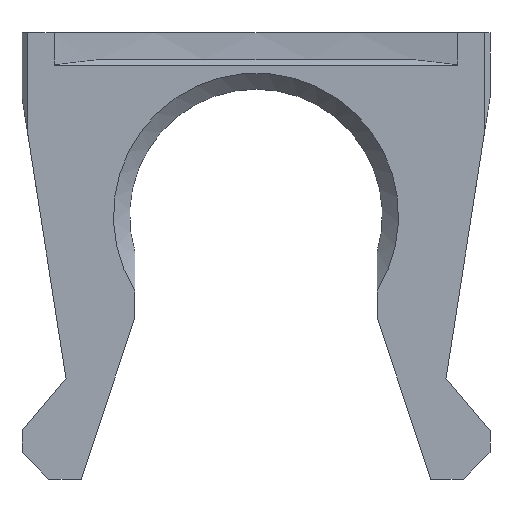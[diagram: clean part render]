
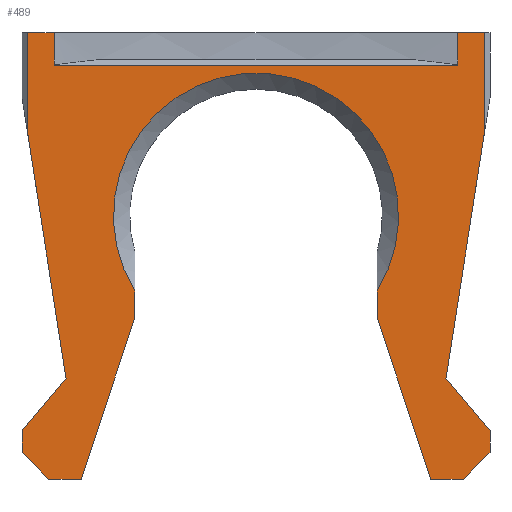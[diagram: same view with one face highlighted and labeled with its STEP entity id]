
A CAD part, left-side view. The second image highlights one B-rep face of the part: STEP entity #489.
In plain terms, the highlighted planar face has unit normal (-1, 0, 0).
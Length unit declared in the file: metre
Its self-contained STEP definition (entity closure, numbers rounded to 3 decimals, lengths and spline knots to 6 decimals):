
#19=CIRCLE('',#529,0.0053);
#24=ORIENTED_EDGE('',*,*,#168,.T.);
#25=ORIENTED_EDGE('',*,*,#169,.T.);
#26=ORIENTED_EDGE('',*,*,#170,.T.);
#27=ORIENTED_EDGE('',*,*,#171,.F.);
#28=ORIENTED_EDGE('',*,*,#172,.F.);
#29=ORIENTED_EDGE('',*,*,#173,.T.);
#30=ORIENTED_EDGE('',*,*,#174,.F.);
#31=ORIENTED_EDGE('',*,*,#175,.F.);
#32=ORIENTED_EDGE('',*,*,#176,.T.);
#33=ORIENTED_EDGE('',*,*,#177,.T.);
#34=ORIENTED_EDGE('',*,*,#178,.F.);
#35=ORIENTED_EDGE('',*,*,#179,.F.);
#36=ORIENTED_EDGE('',*,*,#180,.T.);
#37=ORIENTED_EDGE('',*,*,#181,.F.);
#38=ORIENTED_EDGE('',*,*,#182,.T.);
#39=ORIENTED_EDGE('',*,*,#183,.T.);
#40=ORIENTED_EDGE('',*,*,#184,.T.);
#41=ORIENTED_EDGE('',*,*,#185,.F.);
#42=ORIENTED_EDGE('',*,*,#186,.T.);
#43=ORIENTED_EDGE('',*,*,#187,.T.);
#44=ORIENTED_EDGE('',*,*,#188,.T.);
#45=ORIENTED_EDGE('',*,*,#189,.T.);
#168=EDGE_CURVE('',#240,#241,#288,.T.);
#169=EDGE_CURVE('',#241,#242,#289,.F.);
#170=EDGE_CURVE('',#242,#243,#290,.T.);
#171=EDGE_CURVE('',#244,#243,#291,.T.);
#172=EDGE_CURVE('',#245,#244,#292,.F.);
#173=EDGE_CURVE('',#245,#246,#293,.T.);
#174=EDGE_CURVE('',#247,#246,#294,.T.);
#175=EDGE_CURVE('',#248,#247,#295,.T.);
#176=EDGE_CURVE('',#248,#249,#296,.T.);
#177=EDGE_CURVE('',#249,#250,#297,.F.);
#178=EDGE_CURVE('',#251,#250,#298,.T.);
#179=EDGE_CURVE('',#252,#251,#299,.T.);
#180=EDGE_CURVE('',#252,#253,#300,.F.);
#181=EDGE_CURVE('',#254,#253,#301,.T.);
#182=EDGE_CURVE('',#254,#255,#302,.T.);
#183=EDGE_CURVE('',#255,#256,#303,.T.);
#184=EDGE_CURVE('',#256,#257,#19,.T.);
#185=EDGE_CURVE('',#258,#257,#304,.T.);
#186=EDGE_CURVE('',#258,#259,#305,.T.);
#187=EDGE_CURVE('',#259,#260,#306,.T.);
#188=EDGE_CURVE('',#260,#261,#307,.F.);
#189=EDGE_CURVE('',#261,#240,#308,.T.);
#240=VERTEX_POINT('',#695);
#241=VERTEX_POINT('',#696);
#242=VERTEX_POINT('',#698);
#243=VERTEX_POINT('',#700);
#244=VERTEX_POINT('',#702);
#245=VERTEX_POINT('',#704);
#246=VERTEX_POINT('',#706);
#247=VERTEX_POINT('',#708);
#248=VERTEX_POINT('',#710);
#249=VERTEX_POINT('',#712);
#250=VERTEX_POINT('',#714);
#251=VERTEX_POINT('',#716);
#252=VERTEX_POINT('',#718);
#253=VERTEX_POINT('',#720);
#254=VERTEX_POINT('',#722);
#255=VERTEX_POINT('',#724);
#256=VERTEX_POINT('',#726);
#257=VERTEX_POINT('',#728);
#258=VERTEX_POINT('',#730);
#259=VERTEX_POINT('',#732);
#260=VERTEX_POINT('',#734);
#261=VERTEX_POINT('',#736);
#288=LINE('',#694,#351);
#289=LINE('',#697,#352);
#290=LINE('',#699,#353);
#291=LINE('',#701,#354);
#292=LINE('',#703,#355);
#293=LINE('',#705,#356);
#294=LINE('',#707,#357);
#295=LINE('',#709,#358);
#296=LINE('',#711,#359);
#297=LINE('',#713,#360);
#298=LINE('',#715,#361);
#299=LINE('',#717,#362);
#300=LINE('',#719,#363);
#301=LINE('',#721,#364);
#302=LINE('',#723,#365);
#303=LINE('',#725,#366);
#304=LINE('',#729,#367);
#305=LINE('',#731,#368);
#306=LINE('',#733,#369);
#307=LINE('',#735,#370);
#308=LINE('',#737,#371);
#351=VECTOR('',#565,1.);
#352=VECTOR('',#566,1.);
#353=VECTOR('',#567,1.);
#354=VECTOR('',#568,1.);
#355=VECTOR('',#569,1.);
#356=VECTOR('',#570,1.);
#357=VECTOR('',#571,1.);
#358=VECTOR('',#572,1.);
#359=VECTOR('',#573,1.);
#360=VECTOR('',#574,1.);
#361=VECTOR('',#575,1.);
#362=VECTOR('',#576,1.);
#363=VECTOR('',#577,1.);
#364=VECTOR('',#578,1.);
#365=VECTOR('',#579,1.);
#366=VECTOR('',#580,1.);
#367=VECTOR('',#583,1.);
#368=VECTOR('',#584,1.);
#369=VECTOR('',#585,1.);
#370=VECTOR('',#586,1.);
#371=VECTOR('',#587,1.);
#414=EDGE_LOOP('',(#24,#25,#26,#27,#28,#29,#30,#31,#32,#33,#34,#35,#36,
#37,#38,#39,#40,#41,#42,#43,#44,#45));
#440=FACE_BOUND('',#414,.T.);
#466=PLANE('',#528);
#489=ADVANCED_FACE('',(#440),#466,.F.);
#528=AXIS2_PLACEMENT_3D('',#693,#563,#564);
#529=AXIS2_PLACEMENT_3D('',#727,#581,#582);
#563=DIRECTION('',(1.,0.,0.));
#564=DIRECTION('',(0.,1.,0.));
#565=DIRECTION('',(0.,0.643,0.766));
#566=DIRECTION('',(0.,0.155,-0.988));
#567=DIRECTION('',(0.,0.,1.));
#568=DIRECTION('',(0.,-1.,0.));
#569=DIRECTION('',(0.,0.,-1.));
#570=DIRECTION('',(0.,1.,0.));
#571=DIRECTION('',(0.,0.,-1.));
#572=DIRECTION('',(0.,-1.,0.));
#573=DIRECTION('',(0.,0.,-1.));
#574=DIRECTION('',(0.,0.155,0.988));
#575=DIRECTION('',(0.,-0.643,0.766));
#576=DIRECTION('',(0.,0.,1.));
#577=DIRECTION('',(0.,0.707,0.707));
#578=DIRECTION('',(0.,1.,0.));
#579=DIRECTION('',(0.,-0.316,0.949));
#580=DIRECTION('',(0.,0.,1.));
#581=DIRECTION('',(1.,0.,0.));
#582=DIRECTION('',(0.,0.,-1.));
#583=DIRECTION('',(0.,0.,1.));
#584=DIRECTION('',(0.,-0.316,-0.949));
#585=DIRECTION('',(0.,-1.,0.));
#586=DIRECTION('',(0.,0.707,-0.707));
#587=DIRECTION('',(0.,0.,1.));
#693=CARTESIAN_POINT('',(0.056,0.,0.014073));
#694=CARTESIAN_POINT('',(0.056,-0.0082,0.005604));
#695=CARTESIAN_POINT('',(0.056,-0.0087,0.005008));
#696=CARTESIAN_POINT('',(0.056,-0.007064,0.006958));
#697=CARTESIAN_POINT('',(0.056,-0.006772,0.005094));
#698=CARTESIAN_POINT('',(0.056,-0.0085,0.016116));
#699=CARTESIAN_POINT('',(0.056,-0.0085,0.014073));
#700=CARTESIAN_POINT('',(0.056,-0.0085,0.0198));
#701=CARTESIAN_POINT('',(0.056,0.00435,0.0198));
#702=CARTESIAN_POINT('',(0.056,-0.0075,0.0198));
#703=CARTESIAN_POINT('',(0.056,-0.0075,0.0438));
#704=CARTESIAN_POINT('',(0.056,-0.0075,0.0186));
#705=CARTESIAN_POINT('',(0.056,0.,0.0186));
#706=CARTESIAN_POINT('',(0.056,0.0075,0.0186));
#707=CARTESIAN_POINT('',(0.056,0.0075,0.0438));
#708=CARTESIAN_POINT('',(0.056,0.0075,0.0198));
#709=CARTESIAN_POINT('',(0.056,0.00435,0.0198));
#710=CARTESIAN_POINT('',(0.056,0.0085,0.0198));
#711=CARTESIAN_POINT('',(0.056,0.0085,0.014073));
#712=CARTESIAN_POINT('',(0.056,0.0085,0.016116));
#713=CARTESIAN_POINT('',(0.056,0.0087,0.017392));
#714=CARTESIAN_POINT('',(0.056,0.007064,0.006958));
#715=CARTESIAN_POINT('',(0.056,0.0082,0.005604));
#716=CARTESIAN_POINT('',(0.056,0.0087,0.005008));
#717=CARTESIAN_POINT('',(0.056,0.0087,0.004104));
#718=CARTESIAN_POINT('',(0.056,0.0087,0.0042));
#719=CARTESIAN_POINT('',(0.056,0.0087,0.0042));
#720=CARTESIAN_POINT('',(0.056,0.0077,0.0032));
#721=CARTESIAN_POINT('',(0.056,0.0066,0.0032));
#722=CARTESIAN_POINT('',(0.056,0.0065,0.0032));
#723=CARTESIAN_POINT('',(0.056,0.0065,0.0032));
#724=CARTESIAN_POINT('',(0.056,0.0045,0.0092));
#725=CARTESIAN_POINT('',(0.056,0.0045,0.007422));
#726=CARTESIAN_POINT('',(0.056,0.0045,0.0102));
#727=CARTESIAN_POINT('',(0.056,0.,0.013));
#728=CARTESIAN_POINT('',(0.056,-0.0045,0.0102));
#729=CARTESIAN_POINT('',(0.056,-0.0045,0.007422));
#730=CARTESIAN_POINT('',(0.056,-0.0045,0.0092));
#731=CARTESIAN_POINT('',(0.056,-0.0045,0.0092));
#732=CARTESIAN_POINT('',(0.056,-0.0065,0.0032));
#733=CARTESIAN_POINT('',(0.056,-0.0066,0.0032));
#734=CARTESIAN_POINT('',(0.056,-0.0077,0.0032));
#735=CARTESIAN_POINT('',(0.056,-0.0077,0.0032));
#736=CARTESIAN_POINT('',(0.056,-0.0087,0.0042));
#737=CARTESIAN_POINT('',(0.056,-0.0087,0.004104));
